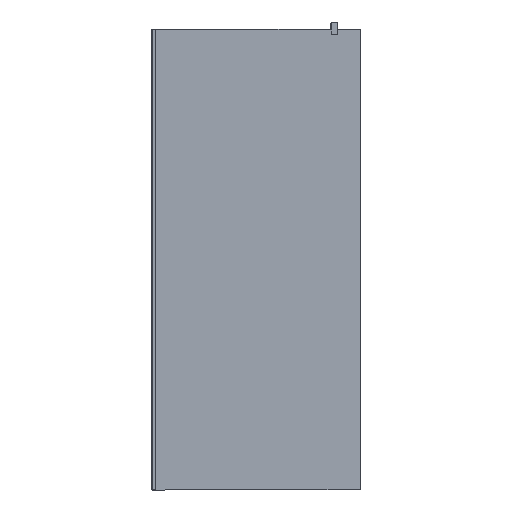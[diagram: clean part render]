
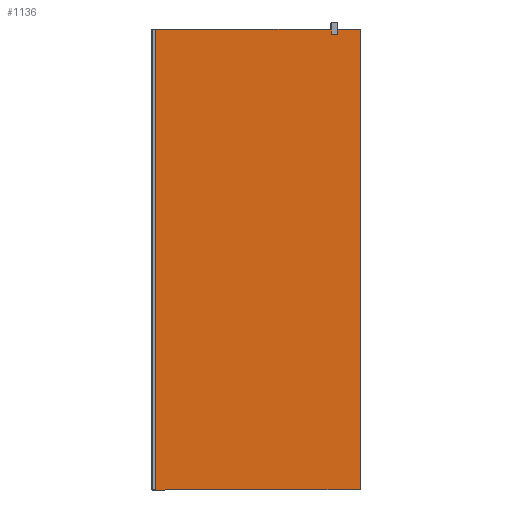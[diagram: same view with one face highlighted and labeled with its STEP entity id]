
A CAD part, front view. The second image highlights one B-rep face of the part: STEP entity #1136.
In plain terms, the highlighted planar face has unit normal (0, -1, 0).
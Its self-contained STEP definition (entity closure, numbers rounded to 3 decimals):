
#60=FACE_OUTER_BOUND($,#119,.T.);
#119=EDGE_LOOP($,(#873,#874,#875,#876,#877,#878,#879,#880));
#188=LINE($,#1617,#317);
#225=LINE($,#1707,#354);
#241=LINE($,#1740,#370);
#246=LINE($,#1748,#375);
#250=LINE($,#1757,#379);
#251=LINE($,#1759,#380);
#252=LINE($,#1761,#381);
#253=LINE($,#1762,#382);
#317=VECTOR($,#1303,25.);
#354=VECTOR($,#1398,763.5);
#370=VECTOR($,#1424,11.5);
#375=VECTOR($,#1431,2000.);
#379=VECTOR($,#1443,1.);
#380=VECTOR($,#1444,900.);
#381=VECTOR($,#1445,2001.);
#382=VECTOR($,#1446,100.);
#460=VERTEX_POINT($,#1615);
#461=VERTEX_POINT($,#1616);
#485=VERTEX_POINT($,#1705);
#490=VERTEX_POINT($,#1717);
#497=VERTEX_POINT($,#1739);
#500=VERTEX_POINT($,#1756);
#501=VERTEX_POINT($,#1758);
#502=VERTEX_POINT($,#1760);
#562=EDGE_CURVE($,#460,#461,#188,.T.);
#609=EDGE_CURVE($,#461,#485,#225,.T.);
#625=EDGE_CURVE($,#497,#490,#241,.T.);
#630=EDGE_CURVE($,#485,#497,#246,.T.);
#634=EDGE_CURVE($,#490,#500,#250,.T.);
#635=EDGE_CURVE($,#501,#500,#251,.T.);
#636=EDGE_CURVE($,#502,#501,#252,.T.);
#637=EDGE_CURVE($,#502,#460,#253,.T.);
#873=ORIENTED_EDGE($,*,*,#630,.T.);
#874=ORIENTED_EDGE($,*,*,#625,.T.);
#875=ORIENTED_EDGE($,*,*,#634,.T.);
#876=ORIENTED_EDGE($,*,*,#635,.F.);
#877=ORIENTED_EDGE($,*,*,#636,.F.);
#878=ORIENTED_EDGE($,*,*,#637,.T.);
#879=ORIENTED_EDGE($,*,*,#562,.T.);
#880=ORIENTED_EDGE($,*,*,#609,.T.);
#1025=PLANE($,#1220);
#1136=ADVANCED_FACE($,(#60),#1025,.T.);
#1220=AXIS2_PLACEMENT_3D($,#1755,#1441,#1442);
#1303=DIRECTION($,(-1.,0.,0.));
#1398=DIRECTION($,(-1.,0.,0.));
#1424=DIRECTION($,(-1.,0.,0.));
#1431=DIRECTION($,(0.,0.,-1.));
#1441=DIRECTION('center_axis',(0.,-1.,0.));
#1442=DIRECTION('ref_axis',(-1.,0.,0.));
#1443=DIRECTION($,(0.,0.,-1.));
#1444=DIRECTION($,(-1.,0.,0.));
#1445=DIRECTION($,(0.,0.,-1.));
#1446=DIRECTION($,(-1.,0.,0.));
#1615=CARTESIAN_POINT('',(1169.519,-34.044,1485.944));
#1616=CARTESIAN_POINT('',(1144.519,-34.044,1485.944));
#1617=CARTESIAN_POINT($,(1269.519,-34.044,1485.944));
#1705=CARTESIAN_POINT('',(381.019,-34.044,1485.944));
#1707=CARTESIAN_POINT($,(1269.519,-34.044,1485.944));
#1717=CARTESIAN_POINT('',(369.519,-34.044,-514.056));
#1739=CARTESIAN_POINT('',(381.019,-34.044,-514.056));
#1740=CARTESIAN_POINT($,(821.519,-34.044,-514.056));
#1748=CARTESIAN_POINT($,(381.019,-34.044,1485.944));
#1755=CARTESIAN_POINT('Origin',(1269.519,-34.044,1485.944));
#1756=CARTESIAN_POINT('',(369.519,-34.044,-515.056));
#1757=CARTESIAN_POINT($,(369.519,-34.044,1485.944));
#1758=CARTESIAN_POINT('',(1269.519,-34.044,-515.056));
#1759=CARTESIAN_POINT($,(1269.519,-34.044,-515.056));
#1760=CARTESIAN_POINT('',(1269.519,-34.044,1485.944));
#1761=CARTESIAN_POINT($,(1269.519,-34.044,1485.944));
#1762=CARTESIAN_POINT($,(1269.519,-34.044,1485.944));
